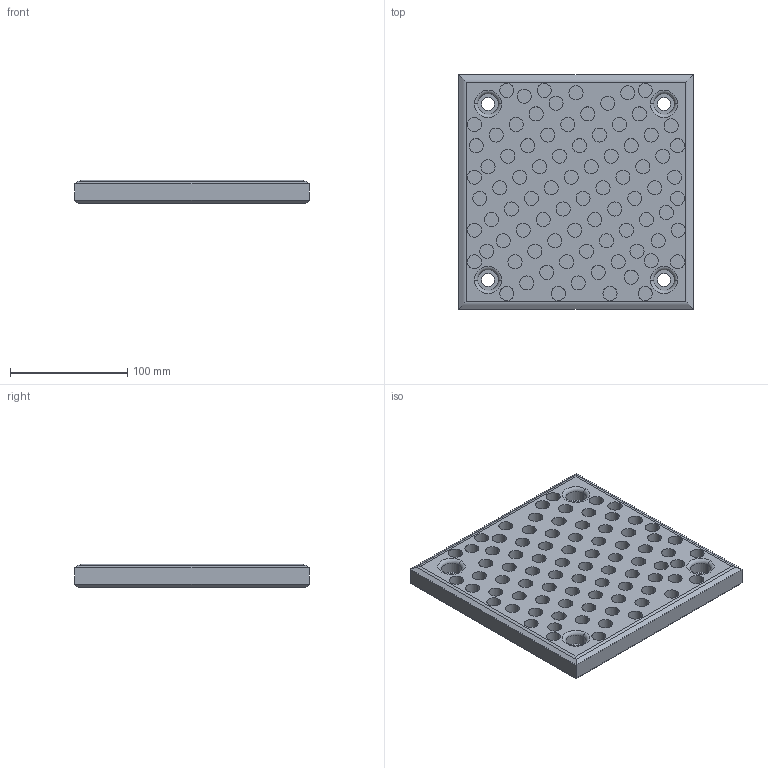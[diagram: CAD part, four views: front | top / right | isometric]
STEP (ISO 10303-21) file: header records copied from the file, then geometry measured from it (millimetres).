
FILE_DESCRIPTION (( 'STEP AP214' ), '1' );
FILE_NAME ('SW224-02-200x200.STEP', '2020-10-19T08:11:21', ( 'August' ), ( '' ), 'SwSTEP 2.0', 'SolidWorks 2018', '' );
FILE_SCHEMA (( 'AUTOMOTIVE_DESIGN' ));
Length unit declared in the file: millimetre
Products named in the file (1): SW224-02-200x200
Bounding box: 200 x 200 x 20 mm (x, y, z)
Volume: 688063.7 mm3; surface area: 124592.8 mm2
Topology: 1 solids, 1 shells, 295 faces, 598 edges, 392 vertices
Faces by surface type: cylinder 186, plane 101, torus 8
Entity records: 8507 total; most frequent: DIRECTION 1558, CARTESIAN_POINT 1369, ORIENTED_EDGE 1196, AXIS2_PLACEMENT_3D 676, EDGE_CURVE 598, VERTEX_POINT 392, EDGE_LOOP 390, CIRCLE 380
